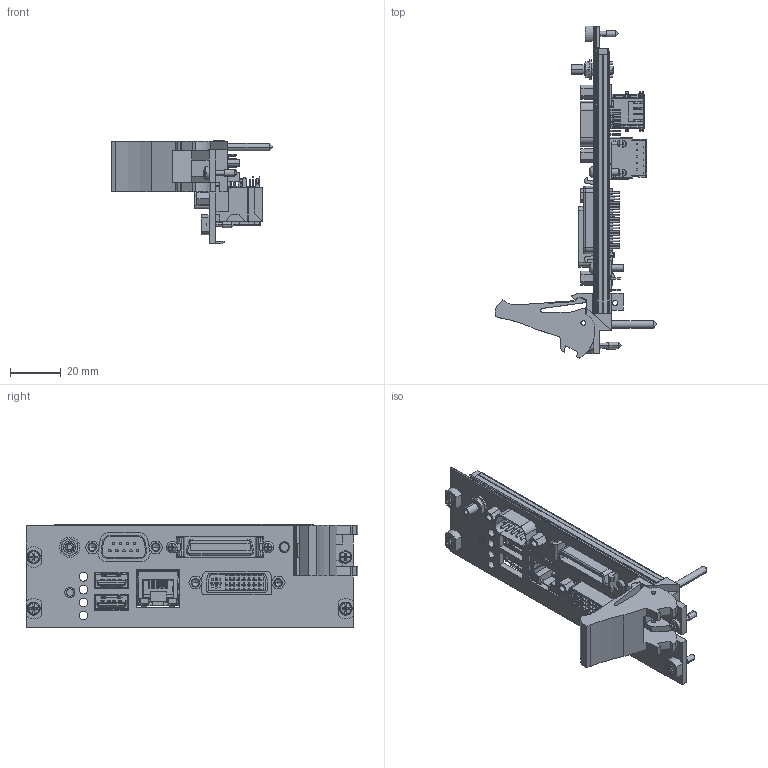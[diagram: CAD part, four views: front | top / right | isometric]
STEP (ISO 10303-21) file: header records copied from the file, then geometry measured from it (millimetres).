
FILE_DESCRIPTION((''),'2;1');
FILE_NAME('CU_ASSY_PXIE-8101-SW','2014-09-29T',('gvillanu'),(''),'PRO/ENGINEER BY PARAMETRIC TECHNOLOGY CORPORATION, 2014000','PRO/ENGINEER BY PARAMETRIC TECHNOLOGY CORPORATION, 2014000','');
FILE_SCHEMA(('CONFIG_CONTROL_DESIGN'));
Length unit declared in the file: inch
Products named in the file (1): CU_ASSY_PXIE-8101-SW
Bounding box: 63.53 x 130.52 x 40.63 mm (x, y, z)
Surface area: 36126.6 mm2 (no closed solid volume)
Topology: 0 solids, 53 shells, 2646 faces, 9124 edges, 6386 vertices
Faces by surface type: plane 1920, cylinder 643, cone 44, torus 15, bspline 12, sphere 12
Entity records: 99556 total; most frequent: CARTESIAN_POINT 21086, DIRECTION 15771, ORIENTED_EDGE 15520, EDGE_CURVE 9102, VECTOR 6895, LINE 6895, VERTEX_POINT 6386, AXIS2_PLACEMENT_3D 4438
